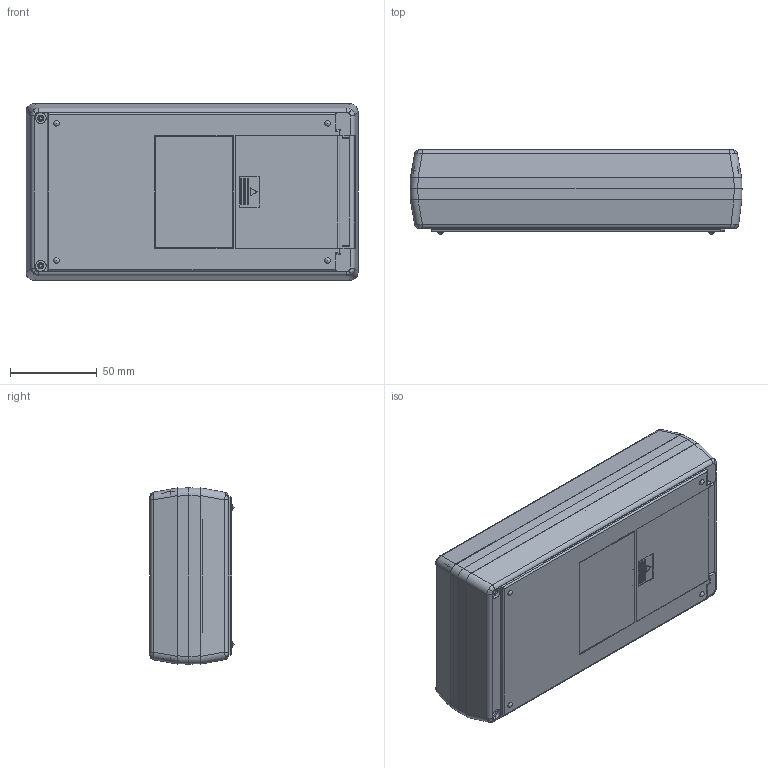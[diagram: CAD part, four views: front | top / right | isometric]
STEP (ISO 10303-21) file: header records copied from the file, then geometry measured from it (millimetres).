
FILE_DESCRIPTION (( 'STEP AP214' ), '1' );
FILE_NAME ('101-42-29V-E-R.STEP', '2019-12-01T01:13:55', ( 'Rudy' ), ( '' ), 'SwSTEP 2.0', 'SolidWorks 2014', '' );
FILE_SCHEMA (( 'AUTOMOTIVE_DESIGN' ));
Length unit declared in the file: millimetre
Products named in the file (5): 100-06 EXPANDER; 29V door; 100-04-LCD Top; 100-02 BOT-29V; 101-42-29V-E-R
Assembly tree (4 placements, depth 2):
  101-42-29V-E-R
    100-02 BOT-29V
    100-04-LCD Top
    29V door
    100-06 EXPANDER
Bounding box: 191 x 48.36 x 101.4 mm (x, y, z)
Volume: 136405.1 mm3; surface area: 151047.8 mm2
Topology: 4 solids, 4 shells, 845 faces, 2262 edges, 1418 vertices
Faces by surface type: plane 474, cylinder 267, cone 46, bspline 42, torus 12, sphere 4
Entity records: 27811 total; most frequent: CARTESIAN_POINT 7218, ORIENTED_EDGE 4448, DIRECTION 3909, EDGE_CURVE 2224, VECTOR 1491, LINE 1491, VERTEX_POINT 1410, AXIS2_PLACEMENT_3D 1209
